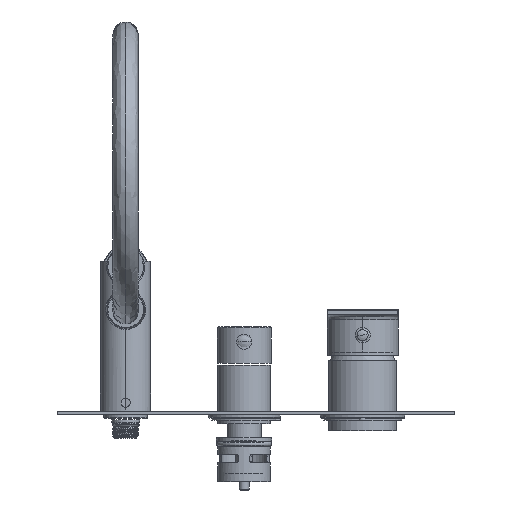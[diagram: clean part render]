
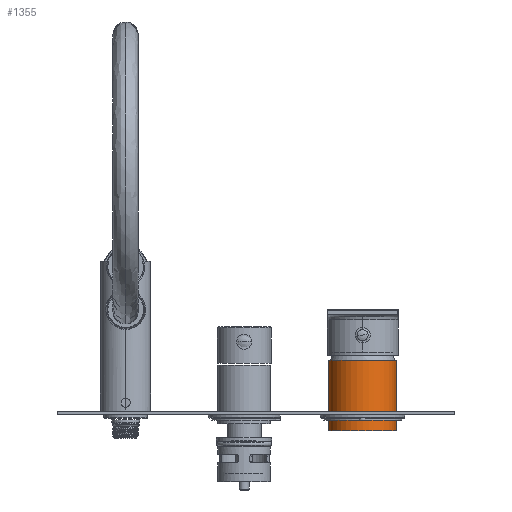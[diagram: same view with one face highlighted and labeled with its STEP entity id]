
A CAD part, front view. The second image highlights one B-rep face of the part: STEP entity #1355.
In plain terms, the highlighted cylindrical face has radius 20 mm (diameter 40 mm), a partial arc.
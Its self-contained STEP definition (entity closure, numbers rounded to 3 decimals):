
#1280=DIRECTION('',(0.,0.,1.));
#1281=VECTOR('',#1280,41.5);
#1282=CARTESIAN_POINT('',(50.,0.,4.));
#1283=LINE('',#1282,#1281);
#1289=DIRECTION('',(0.,0.,1.));
#1290=VECTOR('',#1289,41.5);
#1291=CARTESIAN_POINT('',(90.,0.,4.));
#1292=LINE('',#1291,#1290);
#1293=CARTESIAN_POINT('',(70.,0.,4.));
#1294=DIRECTION('',(0.,0.,1.));
#1295=DIRECTION('',(-1.,0.,0.));
#1296=AXIS2_PLACEMENT_3D('',#1293,#1294,#1295);
#1303=CARTESIAN_POINT('',(70.,0.,45.5));
#1304=DIRECTION('',(0.,0.,1.));
#1305=DIRECTION('',(-1.,0.,0.));
#1306=AXIS2_PLACEMENT_3D('',#1303,#1304,#1305);
#1308=CARTESIAN_POINT('',(50.,0.,4.));
#1309=CARTESIAN_POINT('',(50.,0.,45.5));
#1310=VERTEX_POINT('',#1308);
#1311=VERTEX_POINT('',#1309);
#1312=CARTESIAN_POINT('',(90.,0.,4.));
#1313=CARTESIAN_POINT('',(90.,0.,45.5));
#1314=VERTEX_POINT('',#1312);
#1315=VERTEX_POINT('',#1313);
#1343=CARTESIAN_POINT('',(70.,0.,1.925));
#1344=DIRECTION('',(0.,0.,1.));
#1345=DIRECTION('',(-1.,0.,0.));
#1346=AXIS2_PLACEMENT_3D('',#1343,#1344,#1345);
#1347=CYLINDRICAL_SURFACE('',#1346,20.);
#1348=ORIENTED_EDGE('',*,*,#1333,.T.);
#1350=ORIENTED_EDGE('',*,*,#1349,.T.);
#1351=ORIENTED_EDGE('',*,*,#1336,.F.);
#1352=ORIENTED_EDGE('',*,*,#1323,.F.);
#1353=EDGE_LOOP('',(#1348,#1350,#1351,#1352));
#1354=FACE_OUTER_BOUND('',#1353,.F.);
#1355=ADVANCED_FACE('',(#1354),#1347,.T.);
#1297=CIRCLE('',#1296,20.);
#1307=CIRCLE('',#1306,20.);
#1323=EDGE_CURVE('',#1310,#1314,#1297,.T.);
#1333=EDGE_CURVE('',#1310,#1311,#1283,.T.);
#1336=EDGE_CURVE('',#1314,#1315,#1292,.T.);
#1349=EDGE_CURVE('',#1311,#1315,#1307,.T.);
